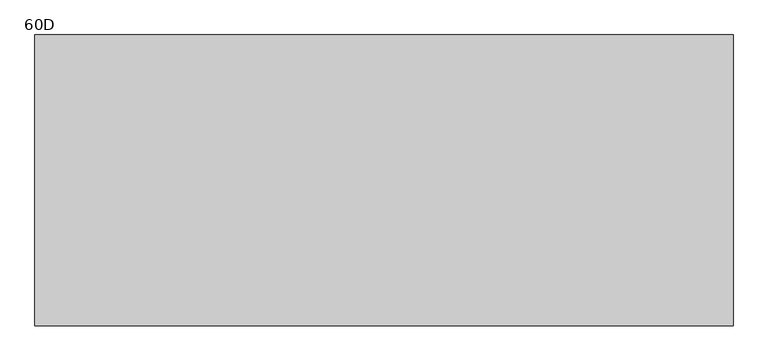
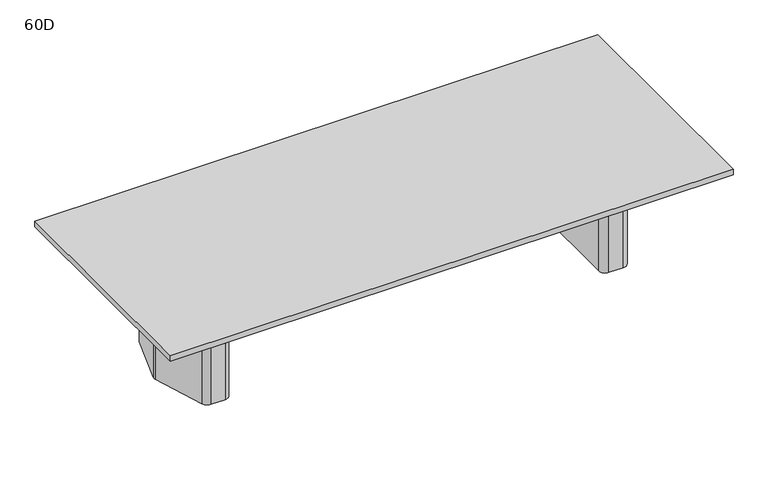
"""IFC4 building model written with IfcOpenShell, lengths in millimetres: furniture geometry, Coalesse_AM_Table_Conference_ETable2_Rectangular_12ft_TwoBase : 60D."""

from ifc_helpers import new_model, si_unit, point, frame, frame_2d, origin, origin_with_axes, place, context, project, spatial, polyline, circle_curve, trimmed, segment, composite_curve, outline, extrude, source, transform, mapped, element, save


def furniture_60d_22f69c9c(model_context):
    return source(origin(), model_context, "Body", "SweptSolid", [
        extrude(outline(composite_curve([segment(polyline([(1427.1625, 101.7236478), (1427.1625, -97.2761514)]), True, "CONTINUOUS"), segment(trimmed(circle_curve(frame_2d((1389.0625, -97.2761514)), 38.1), [point((1427.1625, -97.2761514))], [point((1425.3991129, -108.7330515))], False, "CARTESIAN"), True, "CONTINUOUS"), segment(polyline([(1425.3991129, -108.7330515), (1366.9745591, -294.0319001)]), True, "CONTINUOUS"), segment(trimmed(circle_curve(frame_2d((1330.6379462, -282.575)), 38.1), [point((1366.9745591, -294.0319001))], [point((1330.6379462, -320.675))], False, "CARTESIAN"), True, "CONTINUOUS"), segment(polyline([(1330.6379462, -320.675), (1263.65, -320.675)]), True, "CONTINUOUS"), segment(trimmed(circle_curve(frame_2d((1263.65, -282.575)), 38.1), [point((1263.65, -320.675))], [point((1225.55, -282.575))], False, "CARTESIAN"), True, "CONTINUOUS"), segment(polyline([(1225.55, -282.575), (1225.55, 282.575)]), True, "CONTINUOUS"), segment(trimmed(circle_curve(frame_2d((1263.65, 282.575)), 38.1), [point((1225.55, 282.575))], [point((1263.65, 320.675))], False, "CARTESIAN"), True, "CONTINUOUS"), segment(polyline([(1263.65, 320.675), (1334.3873998, 320.675)]), True, "CONTINUOUS"), segment(trimmed(circle_curve(frame_2d((1334.3873998, 282.575)), 38.1), [point((1334.3873998, 320.675))], [point((1370.8572049, 293.6005756))], False, "CARTESIAN"), True, "CONTINUOUS"), segment(polyline([(1370.8572049, 293.6005756), (1425.5323051, 112.7492234)]), True, "CONTINUOUS"), segment(trimmed(circle_curve(frame_2d((1389.0625, 101.7236478)), 38.1), [point((1425.5323051, 112.7492234))], [point((1427.1625, 101.7236478))], False, "CARTESIAN"), True, "CONTINUOUS")], self_intersect=False)), origin_with_axes(), (0.0, 0.0, 1.0), 3.175),
        extrude(outline(composite_curve([segment(polyline([(1247.775, 381.0), (1335.9221663, 381.0)]), True, "CONTINUOUS"), segment(trimmed(circle_curve(frame_2d((1335.9221663, 339.725)), 41.275), [point((1335.9221663, 381.0))], [point((1375.2868303, 352.1366418))], False, "CARTESIAN"), True, "CONTINUOUS"), segment(polyline([(1375.2868303, 352.1366418), (1482.4018053, 12.4116418)]), True, "CONTINUOUS"), segment(trimmed(circle_curve(frame_2d((1443.0371413, 0.0)), 41.275), [point((1482.4018053, 12.4116418))], [point((1482.4018053, -12.4116418))], False, "CARTESIAN"), True, "CONTINUOUS"), segment(polyline([(1482.4018053, -12.4116418), (1375.2868303, -352.1366418)]), True, "CONTINUOUS"), segment(trimmed(circle_curve(frame_2d((1335.9221663, -339.725)), 41.275), [point((1375.2868303, -352.1366418))], [point((1335.9221663, -381.0))], False, "CARTESIAN"), True, "CONTINUOUS"), segment(polyline([(1335.9221663, -381.0), (1241.425, -381.0)]), True, "CONTINUOUS"), segment(trimmed(circle_curve(frame_2d((1241.425, -339.725)), 41.275), [point((1241.425, -381.0))], [point((1200.15, -339.725))], False, "CARTESIAN"), True, "CONTINUOUS"), segment(polyline([(1200.15, -339.725), (1200.15, 333.375)]), True, "CONTINUOUS"), segment(trimmed(circle_curve(frame_2d((1247.775, 333.375)), 47.625), [point((1200.15, 333.375))], [point((1247.775, 381.0))], False, "CARTESIAN"), True, "CONTINUOUS")], self_intersect=False), holes=[composite_curve([segment(trimmed(circle_curve(frame_2d((1263.65, -282.575)), 25.4), [point((1238.25, -282.575))], [point((1263.65, -307.975))], True, "CARTESIAN"), True, "CONTINUOUS"), segment(polyline([(1263.65, -307.975), (1330.6379462, -307.975)]), True, "CONTINUOUS"), segment(trimmed(circle_curve(frame_2d((1330.6379462, -282.575)), 25.4), [point((1330.6379462, -307.975))], [point((1354.8623548, -290.2129334))], True, "CARTESIAN"), True, "CONTINUOUS"), segment(polyline([(1354.8623548, -290.2129334), (1413.2869086, -104.9140848)]), True, "CONTINUOUS"), segment(trimmed(circle_curve(frame_2d((1389.0625, -97.2761514)), 25.4), [point((1413.2869086, -104.9140848))], [point((1414.4625, -97.2761514))], True, "CARTESIAN"), True, "CONTINUOUS"), segment(polyline([(1414.4625, -97.2761514), (1414.4625, 101.7236478)]), True, "CONTINUOUS"), segment(trimmed(circle_curve(frame_2d((1389.0625, 101.7236478)), 25.4), [point((1414.4625, 101.7236478))], [point((1413.3757034, 109.0740316))], True, "CARTESIAN"), True, "CONTINUOUS"), segment(polyline([(1413.3757034, 109.0740316), (1358.7006032, 289.9253837)]), True, "CONTINUOUS"), segment(trimmed(circle_curve(frame_2d((1334.3873998, 282.575)), 25.4), [point((1358.7006032, 289.9253837))], [point((1334.3873998, 307.975))], True, "CARTESIAN"), True, "CONTINUOUS"), segment(polyline([(1334.3873998, 307.975), (1263.65, 307.975)]), True, "CONTINUOUS"), segment(trimmed(circle_curve(frame_2d((1263.65, 282.575)), 25.4), [point((1263.65, 307.975))], [point((1238.25, 282.575))], True, "CARTESIAN"), True, "CONTINUOUS"), segment(polyline([(1238.25, 282.575), (1238.25, -282.575)]), True, "CONTINUOUS")], self_intersect=False)]), frame((0.0, 0.0, 3.175), z_axis=(0.0, 0.0, 1.0), x_axis=(1.0, 0.0, 0.0)), (0.0, 0.0, 1.0), 695.325),
        extrude(outline(composite_curve([segment(trimmed(circle_curve(frame_2d((-1400.175, 101.7236478)), 38.1), [point((-1438.275, 101.7236478))], [point((-1436.6448051, 112.7492234))], False, "CARTESIAN"), True, "CONTINUOUS"), segment(polyline([(-1436.6448051, 112.7492234), (-1381.9697049, 293.6005756)]), True, "CONTINUOUS"), segment(trimmed(circle_curve(frame_2d((-1345.4998998, 282.575)), 38.1), [point((-1381.9697049, 293.6005756))], [point((-1345.4998998, 320.675))], False, "CARTESIAN"), True, "CONTINUOUS"), segment(polyline([(-1345.4998998, 320.675), (-1274.7625, 320.675)]), True, "CONTINUOUS"), segment(trimmed(circle_curve(frame_2d((-1274.7625, 282.575)), 38.1), [point((-1274.7625, 320.675))], [point((-1236.6625, 282.575))], False, "CARTESIAN"), True, "CONTINUOUS"), segment(polyline([(-1236.6625, 282.575), (-1236.6625, -282.575)]), True, "CONTINUOUS"), segment(trimmed(circle_curve(frame_2d((-1274.7625, -282.575)), 38.1), [point((-1236.6625, -282.575))], [point((-1274.7625, -320.675))], False, "CARTESIAN"), True, "CONTINUOUS"), segment(polyline([(-1274.7625, -320.675), (-1341.7504462, -320.675)]), True, "CONTINUOUS"), segment(trimmed(circle_curve(frame_2d((-1341.7504462, -282.575)), 38.1), [point((-1341.7504462, -320.675))], [point((-1378.0870591, -294.0319001))], False, "CARTESIAN"), True, "CONTINUOUS"), segment(polyline([(-1378.0870591, -294.0319001), (-1436.5116129, -108.7330515)]), True, "CONTINUOUS"), segment(trimmed(circle_curve(frame_2d((-1400.175, -97.2761514)), 38.1), [point((-1436.5116129, -108.7330515))], [point((-1438.275, -97.2761514))], False, "CARTESIAN"), True, "CONTINUOUS"), segment(polyline([(-1438.275, -97.2761514), (-1438.275, 101.7236478)]), True, "CONTINUOUS")], self_intersect=False)), origin_with_axes(), (0.0, 0.0, 1.0), 3.175),
        extrude(outline(composite_curve([segment(trimmed(circle_curve(frame_2d((-1258.8875, 333.375)), 47.625), [point((-1258.8875, 381.0))], [point((-1211.2625, 333.375))], False, "CARTESIAN"), True, "CONTINUOUS"), segment(polyline([(-1211.2625, 333.375), (-1211.2625, -339.725)]), True, "CONTINUOUS"), segment(trimmed(circle_curve(frame_2d((-1252.5375, -339.725)), 41.275), [point((-1211.2625, -339.725))], [point((-1252.5375, -381.0))], False, "CARTESIAN"), True, "CONTINUOUS"), segment(polyline([(-1252.5375, -381.0), (-1347.0346663, -381.0)]), True, "CONTINUOUS"), segment(trimmed(circle_curve(frame_2d((-1347.0346663, -339.725)), 41.275), [point((-1347.0346663, -381.0))], [point((-1386.3993303, -352.1366418))], False, "CARTESIAN"), True, "CONTINUOUS"), segment(polyline([(-1386.3993303, -352.1366418), (-1493.5143053, -12.4116418)]), True, "CONTINUOUS"), segment(trimmed(circle_curve(frame_2d((-1454.1496413, 0.0)), 41.275), [point((-1493.5143053, -12.4116418))], [point((-1493.5143053, 12.4116418))], False, "CARTESIAN"), True, "CONTINUOUS"), segment(polyline([(-1493.5143053, 12.4116418), (-1386.3993303, 352.1366418)]), True, "CONTINUOUS"), segment(trimmed(circle_curve(frame_2d((-1347.0346663, 339.725)), 41.275), [point((-1386.3993303, 352.1366418))], [point((-1347.0346663, 381.0))], False, "CARTESIAN"), True, "CONTINUOUS"), segment(polyline([(-1347.0346663, 381.0), (-1258.8875, 381.0)]), True, "CONTINUOUS")], self_intersect=False), holes=[composite_curve([segment(polyline([(-1249.3625, -282.575), (-1249.3625, 282.575)]), True, "CONTINUOUS"), segment(trimmed(circle_curve(frame_2d((-1274.7625, 282.575)), 25.4), [point((-1249.3625, 282.575))], [point((-1274.7625, 307.975))], True, "CARTESIAN"), True, "CONTINUOUS"), segment(polyline([(-1274.7625, 307.975), (-1345.4998998, 307.975)]), True, "CONTINUOUS"), segment(trimmed(circle_curve(frame_2d((-1345.4998998, 282.575)), 25.4), [point((-1345.4998998, 307.975))], [point((-1369.8131032, 289.9253837))], True, "CARTESIAN"), True, "CONTINUOUS"), segment(polyline([(-1369.8131032, 289.9253837), (-1424.4882034, 109.0740316)]), True, "CONTINUOUS"), segment(trimmed(circle_curve(frame_2d((-1400.175, 101.7236478)), 25.4), [point((-1424.4882034, 109.0740316))], [point((-1425.575, 101.7236478))], True, "CARTESIAN"), True, "CONTINUOUS"), segment(polyline([(-1425.575, 101.7236478), (-1425.575, -97.2761514)]), True, "CONTINUOUS"), segment(trimmed(circle_curve(frame_2d((-1400.175, -97.2761514)), 25.4), [point((-1425.575, -97.2761514))], [point((-1424.3994086, -104.9140848))], True, "CARTESIAN"), True, "CONTINUOUS"), segment(polyline([(-1424.3994086, -104.9140848), (-1365.9748548, -290.2129334)]), True, "CONTINUOUS"), segment(trimmed(circle_curve(frame_2d((-1341.7504462, -282.575)), 25.4), [point((-1365.9748548, -290.2129334))], [point((-1341.7504462, -307.975))], True, "CARTESIAN"), True, "CONTINUOUS"), segment(polyline([(-1341.7504462, -307.975), (-1274.7625, -307.975)]), True, "CONTINUOUS"), segment(trimmed(circle_curve(frame_2d((-1274.7625, -282.575)), 25.4), [point((-1274.7625, -307.975))], [point((-1249.3625, -282.575))], True, "CARTESIAN"), True, "CONTINUOUS")], self_intersect=False)]), frame((0.0, 0.0, 3.175), z_axis=(0.0, 0.0, 1.0), x_axis=(1.0, 0.0, 0.0)), (0.0, 0.0, 1.0), 695.325),
        extrude(outline(polyline([(96.8375, 698.5), (103.1875, 698.5), (103.1875, 476.25), (-103.1875, 476.25), (-103.1875, 698.5), (-96.8375, 698.5), (-96.8375, 482.6), (96.8375, 482.6), (96.8375, 698.5)])), frame((-1211.2625, 0.0, 0.0), z_axis=(1.0, 0.0, 0.0), x_axis=(0.0, 1.0, 0.0)), (0.0, 0.0, 1.0), 2411.4125),
        extrude(outline(polyline([(1828.8, 762.0), (1828.8, -762.0), (-1828.8, -762.0), (-1828.8, 762.0), (1828.8, 762.0)])), frame((0.0, 0.0, 698.5), z_axis=(0.0, 0.0, 1.0), x_axis=(1.0, 0.0, 0.0)), (0.0, 0.0, 1.0), 38.1),
    ])


if __name__ == "__main__":
    model = new_model("IFC4")
    model_context = context("Model", 3, world=origin())
    ifc_project = project(units=[si_unit("LENGTHUNIT", "METRE", prefix="MILLI")], contexts=[model_context])
    site = spatial("IfcSite", under=ifc_project)
    building = spatial("IfcBuilding", under=site)
    placement = place(None, origin())
    furniture_60d_shape = furniture_60d_22f69c9c(model_context)
    element("IfcFurniture", 1, ObjectType="Coalesse_AM_Table_Conference_ETable2_Rectangular_12ft_TwoBase : 60D", at=placement, inside=building, context=model_context, shape_type="MappedRepresentation", body=[
        mapped(furniture_60d_shape, transform((0.0, 0.0, 0.0), x_axis=(1.0, 0.0, 0.0), y_axis=(0.0, 1.0, 0.0), z_axis=(0.0, 0.0, 1.0))),
    ])
    save(model, "model.ifc")
